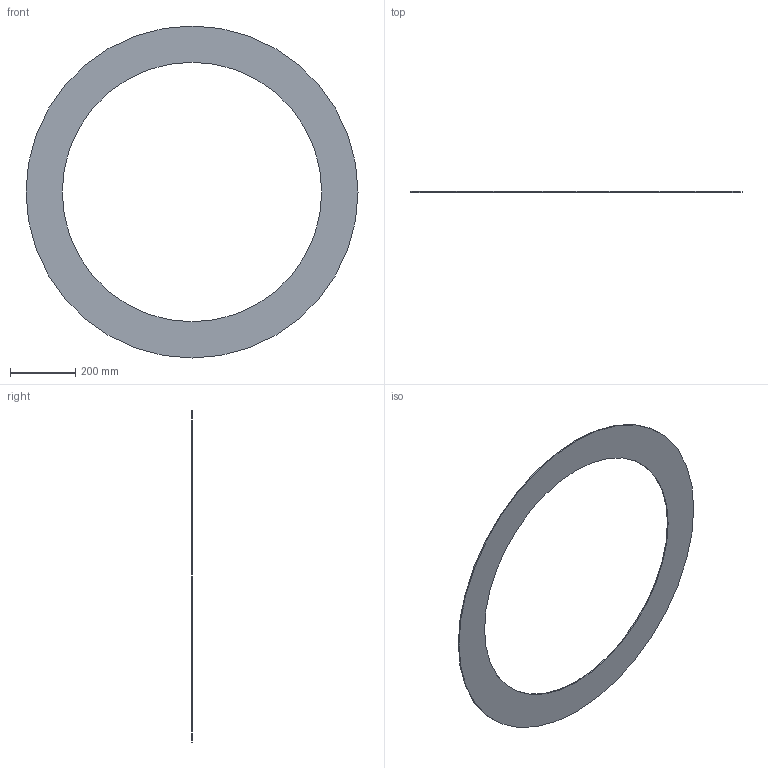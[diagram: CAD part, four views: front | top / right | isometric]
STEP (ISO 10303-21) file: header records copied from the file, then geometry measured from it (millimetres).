
FILE_DESCRIPTION(/* description */ ('Unknown'),/* implementation_level */ '2;1');
FILE_NAME(/* name */ 'GUA.900B',/* time_stamp */ '2021-04-01T14:45:09+02:00',/* author */ ('Unknown'),/* organization */ ('Unknown'),/* preprocessor_version */ 'ST-DEVELOPER v16.7',/* originating_system */ 'Solid Edge',/* authorisation */ 'Unknown');
FILE_SCHEMA (('AUTOMOTIVE_DESIGN {1 0 10303 214 3 1 1}'));
Length unit declared in the file: millimetre
Products named in the file (1): GUA.900B
Bounding box: 1017 x 3 x 1017 mm (x, y, z)
Volume: 947812.2 mm3; surface area: 648952.5 mm2
Topology: 1 solids, 1 shells, 4 faces, 6 edges, 4 vertices
Faces by surface type: cylinder 2, plane 2
Full cylindrical faces by diameter (mm): 795 x1, 1017 x1
Entity records: 118 total; most frequent: DIRECTION 18, CARTESIAN_POINT 13, AXIS2_PLACEMENT_3D 9, ORIENTED_EDGE 8, EDGE_LOOP 8, FACE_BOUND 8, EDGE_CURVE 4, VERTEX_POINT 4
